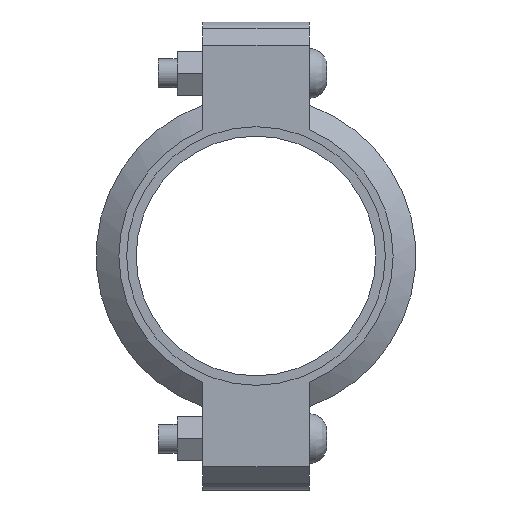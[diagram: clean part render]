
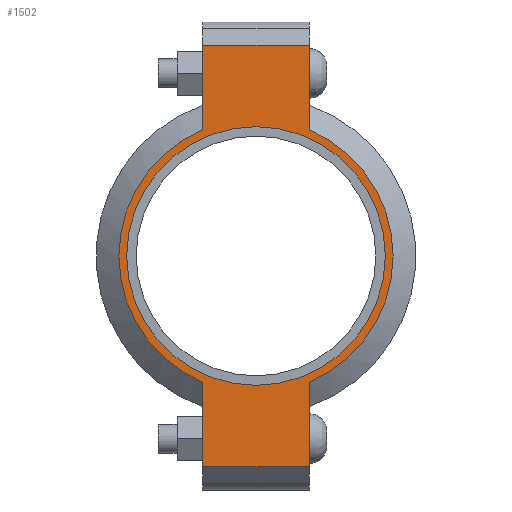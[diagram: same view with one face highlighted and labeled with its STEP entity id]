
A CAD part, left-side view. The second image highlights one B-rep face of the part: STEP entity #1502.
In plain terms, the highlighted planar face has unit normal (-1, 0, 0) as drawn and (0, 0, 1) by its records, which use the part's own axes.
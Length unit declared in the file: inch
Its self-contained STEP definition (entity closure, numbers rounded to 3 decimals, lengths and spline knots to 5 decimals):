
#126=LINE('',#2630,#219);
#134=LINE('',#2666,#227);
#141=LINE('',#2687,#234);
#150=LINE('',#2719,#243);
#151=LINE('',#2723,#244);
#152=LINE('',#2725,#245);
#219=VECTOR('',#2154,0.3937);
#227=VECTOR('',#2170,0.3937);
#234=VECTOR('',#2189,0.3937);
#243=VECTOR('',#2214,0.3937);
#244=VECTOR('',#2219,0.3937);
#245=VECTOR('',#2220,0.3937);
#301=FACE_BOUND('',#479,.T.);
#373=FACE_OUTER_BOUND('',#478,.T.);
#478=EDGE_LOOP('',(#1243,#1244,#1245,#1246,#1247,#1248,#1249,#1250));
#479=EDGE_LOOP('',(#1251));
#551=CIRCLE('',#1730,2.7815);
#577=CIRCLE('',#1789,2.95);
#578=CIRCLE('',#1790,2.95);
#643=VERTEX_POINT('',#2446);
#686=VERTEX_POINT('',#2627);
#687=VERTEX_POINT('',#2629);
#698=VERTEX_POINT('',#2661);
#699=VERTEX_POINT('',#2665);
#706=VERTEX_POINT('',#2684);
#707=VERTEX_POINT('',#2686);
#717=VERTEX_POINT('',#2722);
#718=VERTEX_POINT('',#2724);
#799=EDGE_CURVE('',#643,#643,#551,.T.);
#860=EDGE_CURVE('',#687,#686,#126,.T.);
#874=EDGE_CURVE('',#699,#698,#134,.T.);
#884=EDGE_CURVE('',#707,#706,#141,.T.);
#899=EDGE_CURVE('',#699,#686,#150,.T.);
#900=EDGE_CURVE('',#698,#707,#577,.T.);
#901=EDGE_CURVE('',#717,#706,#151,.T.);
#902=EDGE_CURVE('',#717,#718,#152,.T.);
#903=EDGE_CURVE('',#718,#687,#578,.T.);
#1243=ORIENTED_EDGE('',*,*,#899,.F.);
#1244=ORIENTED_EDGE('',*,*,#874,.T.);
#1245=ORIENTED_EDGE('',*,*,#900,.T.);
#1246=ORIENTED_EDGE('',*,*,#884,.T.);
#1247=ORIENTED_EDGE('',*,*,#901,.F.);
#1248=ORIENTED_EDGE('',*,*,#902,.T.);
#1249=ORIENTED_EDGE('',*,*,#903,.T.);
#1250=ORIENTED_EDGE('',*,*,#860,.T.);
#1251=ORIENTED_EDGE('',*,*,#799,.T.);
#1344=PLANE('',#1788);
#1502=ADVANCED_FACE('',(#373,#301),#1344,.T.);
#1730=AXIS2_PLACEMENT_3D('',#2448,#2030,#2031);
#1788=AXIS2_PLACEMENT_3D('',#2720,#2215,#2216);
#1789=AXIS2_PLACEMENT_3D('',#2721,#2217,#2218);
#1790=AXIS2_PLACEMENT_3D('',#2726,#2221,#2222);
#2030=DIRECTION('center_axis',(0.,0.,-1.));
#2031=DIRECTION('ref_axis',(1.,0.,0.));
#2154=DIRECTION('',(1.,0.,0.));
#2170=DIRECTION('',(-1.,0.,0.));
#2189=DIRECTION('',(-1.,0.,0.));
#2214=DIRECTION('',(0.,-1.,0.));
#2215=DIRECTION('center_axis',(0.,0.,1.));
#2216=DIRECTION('ref_axis',(-1.,0.,0.));
#2217=DIRECTION('center_axis',(0.,0.,1.));
#2218=DIRECTION('ref_axis',(1.,0.,0.));
#2219=DIRECTION('',(0.,1.,0.));
#2220=DIRECTION('',(1.,0.,0.));
#2221=DIRECTION('center_axis',(0.,0.,1.));
#2222=DIRECTION('ref_axis',(1.,0.,0.));
#2446=CARTESIAN_POINT('',(-2.7815,0.,1.065));
#2448=CARTESIAN_POINT('Origin',(0.,0.,1.065));
#2627=CARTESIAN_POINT('',(4.535,-1.15,1.065));
#2629=CARTESIAN_POINT('',(2.71662,-1.15,1.065));
#2630=CARTESIAN_POINT('',(5.035,-1.15,1.065));
#2661=CARTESIAN_POINT('',(2.71662,1.15,1.065));
#2665=CARTESIAN_POINT('',(4.535,1.15,1.065));
#2666=CARTESIAN_POINT('',(-5.035,1.15,1.065));
#2684=CARTESIAN_POINT('',(-4.535,1.15,1.065));
#2686=CARTESIAN_POINT('',(-2.71662,1.15,1.065));
#2687=CARTESIAN_POINT('',(-5.035,1.15,1.065));
#2719=CARTESIAN_POINT('',(4.535,-0.575,1.065));
#2720=CARTESIAN_POINT('Origin',(0.,0.,
1.065));
#2721=CARTESIAN_POINT('Origin',(0.,0.,1.065));
#2722=CARTESIAN_POINT('',(-4.535,-1.15,1.065));
#2723=CARTESIAN_POINT('',(-4.535,0.575,1.065));
#2724=CARTESIAN_POINT('',(-2.71662,-1.15,1.065));
#2725=CARTESIAN_POINT('',(5.035,-1.15,1.065));
#2726=CARTESIAN_POINT('Origin',(0.,0.,1.065));
